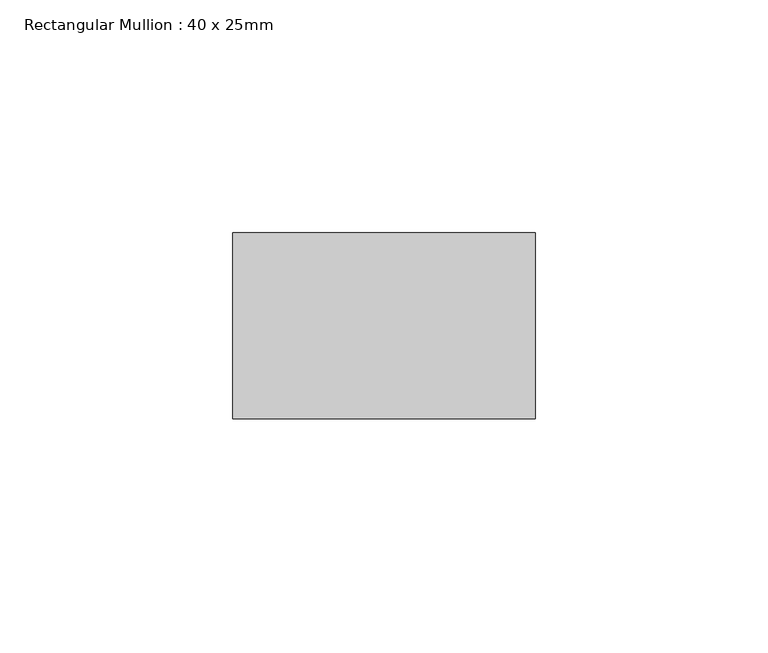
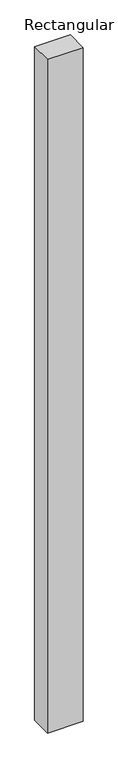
"""IFC4 building model written with IfcOpenShell, lengths in millimetres: member geometry, Rectangular Mullion : 40 x 25mm."""

from ifc_helpers import new_model, si_unit, frame, origin, place, context, project, spatial, polyline, outline, extrude, source, transform, mapped, element, save


def rectangular_mullion_40_x_25mm_2d582075(model_context):
    return source(origin(), model_context, "Body", "SweptSolid", [
        extrude(outline(polyline([(40.0, -20.0), (40.0, -60.0), (-25.0, -60.0), (-25.0, -20.0), (40.0, -20.0)])), frame((0.0, 0.0, -1293.4510534), z_axis=(0.0, 0.0, 1.0), x_axis=(1.0, 0.0, 0.0)), (0.0, 0.0, 1.0), 1293.4510534),
    ])


if __name__ == "__main__":
    model = new_model("IFC4")
    model_context = context("Model", 3, world=origin())
    ifc_project = project(units=[si_unit("LENGTHUNIT", "METRE", prefix="MILLI")], contexts=[model_context])
    site = spatial("IfcSite", under=ifc_project)
    building = spatial("IfcBuilding", under=site)
    placement = place(None, origin())
    rectangular_mullion_40_x_25mm_shape = rectangular_mullion_40_x_25mm_2d582075(model_context)
    element("IfcMember", 1, ObjectType="Rectangular Mullion : 40 x 25mm", at=placement, inside=building, context=model_context, shape_type="MappedRepresentation", body=[
        mapped(rectangular_mullion_40_x_25mm_shape, transform((0.0, 0.0, 0.0), x_axis=(1.0, 0.0, 0.0), y_axis=(0.0, 1.0, 0.0), z_axis=(0.0, 0.0, 1.0))),
    ])
    save(model, "model.ifc")
